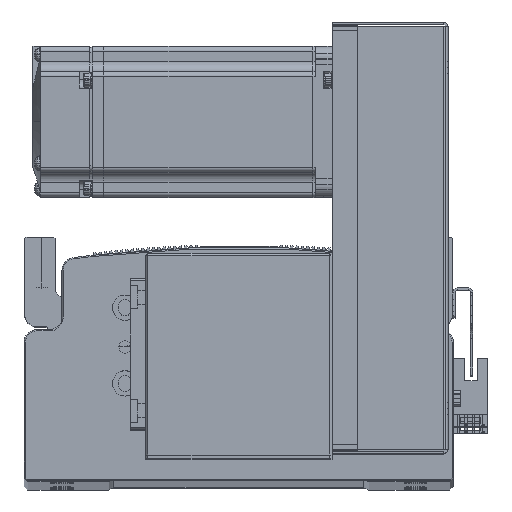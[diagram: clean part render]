
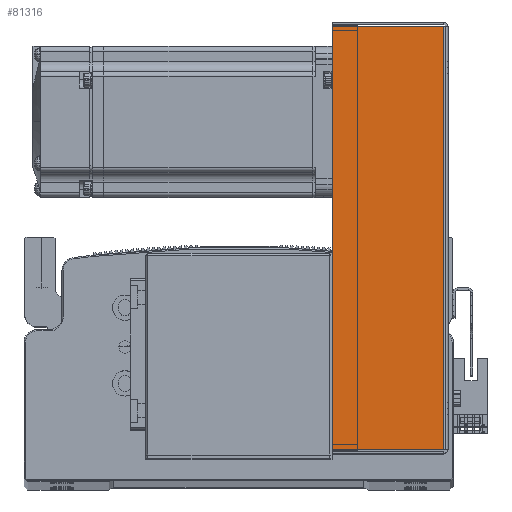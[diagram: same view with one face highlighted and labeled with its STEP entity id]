
A CAD part, top view. The second image highlights one B-rep face of the part: STEP entity #81316.
In plain terms, the highlighted planar face has unit normal (0, 0, 1).
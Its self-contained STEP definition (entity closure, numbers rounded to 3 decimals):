
#173 = EDGE_LOOP ( 'NONE', ( #40705, #40715, #40781, #40749 ) ) ;
#26473 = DIRECTION ( 'NONE',  ( -1., 0., 0. ) ) ;
#26480 = DIRECTION ( 'NONE',  ( 0., 0., -1. ) ) ;
#26558 = PLANE ( 'NONE',  #34380 ) ;
#26561 = CARTESIAN_POINT ( 'NONE',  ( 0., 0., 40.5 ) ) ;
#34380 = AXIS2_PLACEMENT_3D ( 'NONE', #26561, #26480, #26473 ) ;
#38861 = CARTESIAN_POINT ( 'NONE',  ( 83.793, 0.737, 40.5 ) ) ;
#38933 = CARTESIAN_POINT ( 'NONE',  ( -83.793, 45., 40.5 ) ) ;
#38967 = CARTESIAN_POINT ( 'NONE',  ( -83.793, 0.737, 40.5 ) ) ;
#39036 = CARTESIAN_POINT ( 'NONE',  ( 83.793, 45., 40.5 ) ) ;
#40705 = ORIENTED_EDGE ( 'NONE', *, *, #70035, .F. ) ;
#40715 = ORIENTED_EDGE ( 'NONE', *, *, #70084, .T. ) ;
#40749 = ORIENTED_EDGE ( 'NONE', *, *, #70039, .F. ) ;
#40781 = ORIENTED_EDGE ( 'NONE', *, *, #70067, .T. ) ;
#51081 = VECTOR ( 'NONE', #51852, 1000. ) ;
#51126 = LINE ( 'NONE', #51909, #51129 ) ;
#51129 = VECTOR ( 'NONE', #51907, 1000. ) ;
#51146 = LINE ( 'NONE', #51771, #51081 ) ;
#51257 = VECTOR ( 'NONE', #52073, 1000. ) ;
#51278 = LINE ( 'NONE', #52236, #51286 ) ;
#51286 = VECTOR ( 'NONE', #52289, 1000. ) ;
#51353 = LINE ( 'NONE', #52173, #51257 ) ;
#51771 = CARTESIAN_POINT ( 'NONE',  ( -83.793, 0., 40.5 ) ) ;
#51852 = DIRECTION ( 'NONE',  ( 0., 1., 0. ) ) ;
#51907 = DIRECTION ( 'NONE',  ( -1., 0., 0. ) ) ;
#51909 = CARTESIAN_POINT ( 'NONE',  ( 0., 0.737, 40.5 ) ) ;
#52073 = DIRECTION ( 'NONE',  ( -1., 0., 0. ) ) ;
#52173 = CARTESIAN_POINT ( 'NONE',  ( -84.5, 45., 40.5 ) ) ;
#52236 = CARTESIAN_POINT ( 'NONE',  ( 83.793, 0., 40.5 ) ) ;
#52289 = DIRECTION ( 'NONE',  ( 0., 1., 0. ) ) ;
#55112 = FACE_OUTER_BOUND ( 'NONE', #173, .T. ) ;
#70035 = EDGE_CURVE ( 'NONE', #77294, #77424, #51126, .T. ) ;
#70039 = EDGE_CURVE ( 'NONE', #77424, #77289, #51146, .T. ) ;
#70067 = EDGE_CURVE ( 'NONE', #77375, #77289, #51353, .T. ) ;
#70084 = EDGE_CURVE ( 'NONE', #77294, #77375, #51278, .T. ) ;
#77289 = VERTEX_POINT ( 'NONE', #38933 ) ;
#77294 = VERTEX_POINT ( 'NONE', #38861 ) ;
#77375 = VERTEX_POINT ( 'NONE', #39036 ) ;
#77424 = VERTEX_POINT ( 'NONE', #38967 ) ;
#81316 = ADVANCED_FACE ( 'NONE', ( #55112 ), #26558, .F. ) ;
